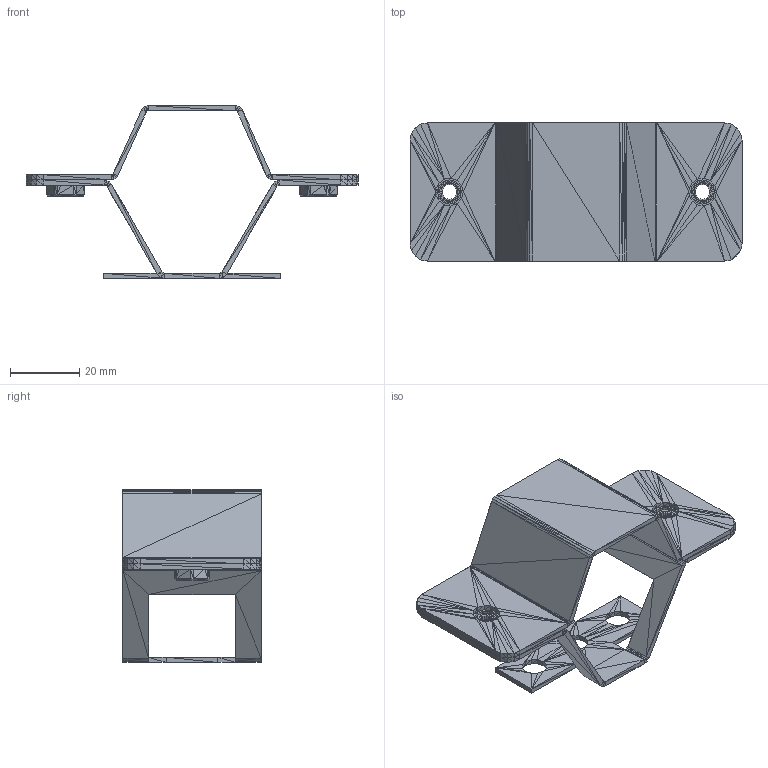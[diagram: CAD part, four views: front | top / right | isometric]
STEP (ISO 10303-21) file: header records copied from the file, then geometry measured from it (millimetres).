
FILE_DESCRIPTION((''),'2;1');
FILE_NAME('051095', '2025-12-10T12:15:39', (''), (''), 'ImageToStl.com STEP Converter','', '');
FILE_SCHEMA(('AUTOMOTIVE_DESIGN_CC2'));
Length unit declared in the file: metre
Products named in the file (1): product0
Bounding box: 96 x 40 x 50 mm (x, y, z)
Surface area: 20108 mm2 (no closed solid volume)
Topology: 0 solids, 1502 shells, 1502 faces, 4506 edges, 725 vertices
Faces by surface type: plane 1502
Entity records: 34522 total; most frequent: DIRECTION 7512, ORIENTED_EDGE 4506, EDGE_CURVE 4506, LINE 4506, VECTOR 4506, AXIS2_PLACEMENT_3D 1503, FACE_SURFACE 1502, PLANE 1502
